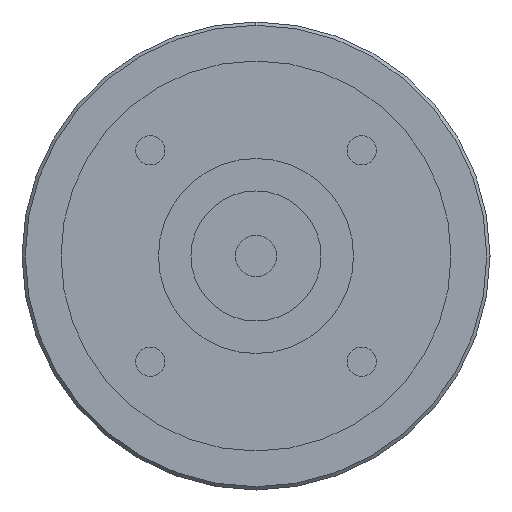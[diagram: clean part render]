
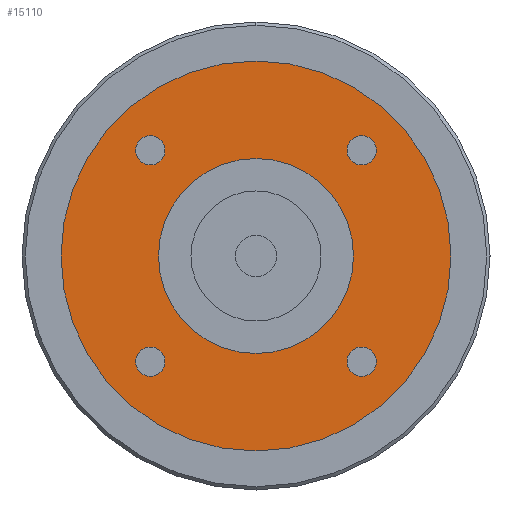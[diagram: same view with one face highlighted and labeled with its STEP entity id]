
A CAD part, left-side view. The second image highlights one B-rep face of the part: STEP entity #15110.
In plain terms, the highlighted planar face has unit normal (-1, 0, 0) as drawn and (0, 0, -1) by its records, which use the part's own axes.
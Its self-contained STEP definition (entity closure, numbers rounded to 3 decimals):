
#11890=CARTESIAN_POINT('',(0.,0.,
-91.));
#11900=DIRECTION('',(0.,0.,1.));
#11910=DIRECTION('',(0.,-1.,0.));
#11920=AXIS2_PLACEMENT_3D('',#11890,#11900,#11910);
#11930=CIRCLE('',#11920,15.);
#11940=CARTESIAN_POINT('',(0.,-15.,-91.));
#11950=VERTEX_POINT('',#11940);
#11960=CARTESIAN_POINT('',(15.,0.,-91.));
#11970=VERTEX_POINT('',#11960);
#11980=EDGE_CURVE('',#11950,#11970,#11930,.T.);
#12210=CARTESIAN_POINT('',(-15.,0.,-91.));
#12220=VERTEX_POINT('',#12210);
#12250=EDGE_CURVE('',#12220,#11950,#11930,.T.);
#12390=CARTESIAN_POINT('',(-14.013,-16.263,-91.));
#12400=VERTEX_POINT('',#12390);
#12580=CARTESIAN_POINT('',(-18.513,-16.263,-91.));
#12590=VERTEX_POINT('',#12580);
#12620=CARTESIAN_POINT('',(-16.263,-16.263,-91.));
#12630=DIRECTION('',(0.,0.,-1.));
#12640=DIRECTION('',(0.,-1.,0.));
#12650=AXIS2_PLACEMENT_3D('',#12620,#12630,#12640);
#12660=CIRCLE('',#12650,2.25);
#12670=CARTESIAN_POINT('',(-16.263,-18.513,-91.));
#12680=VERTEX_POINT('',#12670);
#12690=EDGE_CURVE('',#12680,#12590,#12660,.T.);
#12710=EDGE_CURVE('',#12400,#12680,#12660,.T.);
#14040=CARTESIAN_POINT('',(30.,0.,-91.));
#14050=VERTEX_POINT('',#14040);
#14080=CARTESIAN_POINT('',(0.,0.,
-91.));
#14090=DIRECTION('',(0.,0.,1.));
#14100=DIRECTION('',(0.,-1.,0.));
#14110=AXIS2_PLACEMENT_3D('',#14080,#14090,#14100);
#14120=CIRCLE('',#14110,30.);
#14130=CARTESIAN_POINT('',(0.,-30.,-91.));
#14140=VERTEX_POINT('',#14130);
#14150=EDGE_CURVE('',#14140,#14050,#14120,.T.);
#14170=CARTESIAN_POINT('',(-30.,0.,-91.));
#14180=VERTEX_POINT('',#14170);
#14190=EDGE_CURVE('',#14180,#14140,#14120,.T.);
#14310=CARTESIAN_POINT('',(0.,0.,
-91.));
#14320=DIRECTION('',(0.,0.,1.));
#14330=DIRECTION('',(-1.,0.,0.));
#14340=AXIS2_PLACEMENT_3D('',#14310,#14320,#14330);
#14350=PLANE('',#14340);
#14360=CARTESIAN_POINT('',(16.263,-16.263,-91.));
#14370=DIRECTION('',(0.,0.,-1.));
#14380=DIRECTION('',(1.,0.,0.));
#14390=AXIS2_PLACEMENT_3D('',#14360,#14370,#14380);
#14400=CIRCLE('',#14390,2.25);
#14410=CARTESIAN_POINT('',(18.513,-16.263,-91.));
#14420=VERTEX_POINT('',#14410);
#14430=CARTESIAN_POINT('',(16.263,-18.513,-91.));
#14440=VERTEX_POINT('',#14430);
#14450=EDGE_CURVE('',#14420,#14440,#14400,.T.);
#14460=ORIENTED_EDGE('',*,*,#14450,.F.);
#14470=CARTESIAN_POINT('',(16.263,-14.013,-91.));
#14480=VERTEX_POINT('',#14470);
#14490=EDGE_CURVE('',#14440,#14480,#14400,.T.);
#14500=ORIENTED_EDGE('',*,*,#14490,.F.);
#14510=EDGE_CURVE('',#14480,#14420,#14400,.T.);
#14520=ORIENTED_EDGE('',*,*,#14510,.F.);
#14530=EDGE_LOOP('',(#14520,#14500,#14460));
#14540=FACE_BOUND('',#14530,.T.);
#14550=CARTESIAN_POINT('',(16.263,16.263,-91.));
#14560=DIRECTION('',(0.,0.,-1.));
#14570=DIRECTION('',(0.,1.,0.));
#14580=AXIS2_PLACEMENT_3D('',#14550,#14560,#14570);
#14590=CIRCLE('',#14580,2.25);
#14600=CARTESIAN_POINT('',(16.263,18.513,-91.));
#14610=VERTEX_POINT('',#14600);
#14620=CARTESIAN_POINT('',(18.513,16.263,-91.));
#14630=VERTEX_POINT('',#14620);
#14640=EDGE_CURVE('',#14610,#14630,#14590,.T.);
#14650=ORIENTED_EDGE('',*,*,#14640,.F.);
#14660=CARTESIAN_POINT('',(14.013,16.263,-91.));
#14670=VERTEX_POINT('',#14660);
#14680=EDGE_CURVE('',#14630,#14670,#14590,.T.);
#14690=ORIENTED_EDGE('',*,*,#14680,.F.);
#14700=EDGE_CURVE('',#14670,#14610,#14590,.T.);
#14710=ORIENTED_EDGE('',*,*,#14700,.F.);
#14720=EDGE_LOOP('',(#14710,#14690,#14650));
#14730=FACE_BOUND('',#14720,.T.);
#14740=CARTESIAN_POINT('',(-16.263,16.263,-91.));
#14750=DIRECTION('',(0.,0.,-1.));
#14760=DIRECTION('',(-1.,0.,0.));
#14770=AXIS2_PLACEMENT_3D('',#14740,#14750,#14760);
#14780=CIRCLE('',#14770,2.25);
#14790=CARTESIAN_POINT('',(-18.513,16.263,-91.));
#14800=VERTEX_POINT('',#14790);
#14810=CARTESIAN_POINT('',(-16.263,18.513,-91.));
#14820=VERTEX_POINT('',#14810);
#14830=EDGE_CURVE('',#14800,#14820,#14780,.T.);
#14840=ORIENTED_EDGE('',*,*,#14830,.F.);
#14850=CARTESIAN_POINT('',(-16.263,14.013,-91.));
#14860=VERTEX_POINT('',#14850);
#14870=EDGE_CURVE('',#14820,#14860,#14780,.T.);
#14880=ORIENTED_EDGE('',*,*,#14870,.F.);
#14890=EDGE_CURVE('',#14860,#14800,#14780,.T.);
#14900=ORIENTED_EDGE('',*,*,#14890,.F.);
#14910=EDGE_LOOP('',(#14900,#14880,#14840));
#14920=FACE_BOUND('',#14910,.T.);
#14930=ORIENTED_EDGE('',*,*,#12690,.F.);
#14940=EDGE_CURVE('',#12590,#12400,#12660,.T.);
#14950=ORIENTED_EDGE('',*,*,#14940,.F.);
#14960=ORIENTED_EDGE('',*,*,#12710,.F.);
#14970=EDGE_LOOP('',(#14960,#14950,#14930));
#14980=FACE_BOUND('',#14970,.T.);
#14990=ORIENTED_EDGE('',*,*,#14150,.F.);
#15000=EDGE_CURVE('',#14050,#14180,#14120,.T.);
#15010=ORIENTED_EDGE('',*,*,#15000,.F.);
#15020=ORIENTED_EDGE('',*,*,#14190,.F.);
#15030=EDGE_LOOP('',(#15020,#15010,#14990));
#15040=FACE_OUTER_BOUND('',#15030,.T.);
#15050=EDGE_CURVE('',#11970,#12220,#11930,.T.);
#15060=ORIENTED_EDGE('',*,*,#15050,.T.);
#15070=ORIENTED_EDGE('',*,*,#11980,.T.);
#15080=ORIENTED_EDGE('',*,*,#12250,.T.);
#15090=EDGE_LOOP('',(#15080,#15070,#15060));
#15100=FACE_BOUND('',#15090,.T.);
#15110=ADVANCED_FACE('',(#14540,#14730,#14920,#14980,#15040,#15100),
#14350,.F.);
